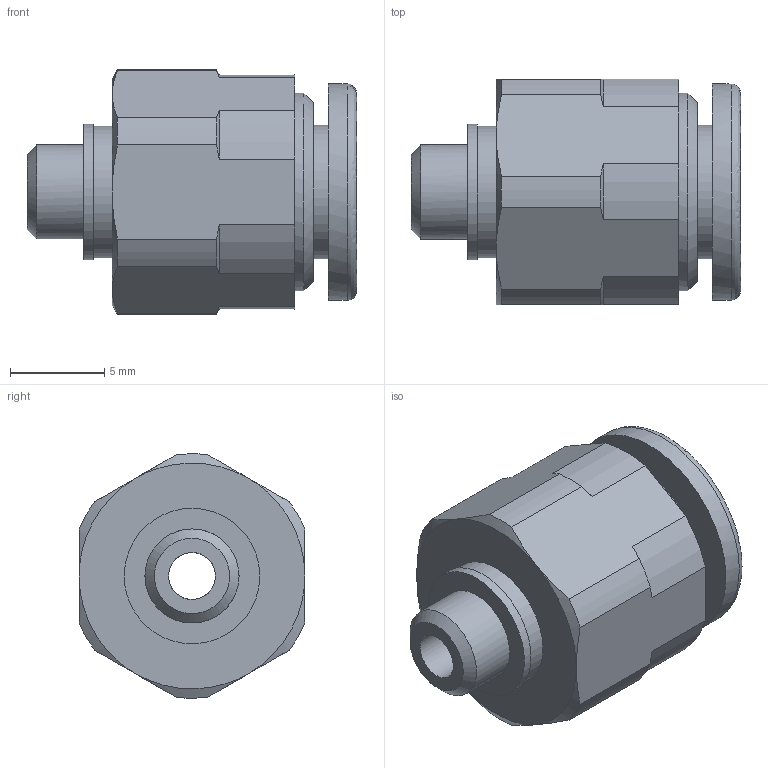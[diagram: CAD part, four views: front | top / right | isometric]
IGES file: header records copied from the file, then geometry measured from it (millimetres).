
Global section: file name: [04] FS6-M5M FS6-M5MW; native system: Autodesk Inventor 2014; preprocessor: unknown; author: kazuhiro.t; date: 20130806.164646; units: millimetre
Bounding box: 17.5 x 12 x 13 mm (x, y, z)
Volume: 1181.2 mm3; surface area: 1184.8 mm2
Topology: 1 solids, 1 shells, 50 faces, 118 edges, 77 vertices
Faces by surface type: bspline 50
